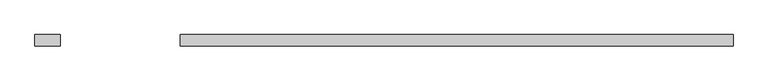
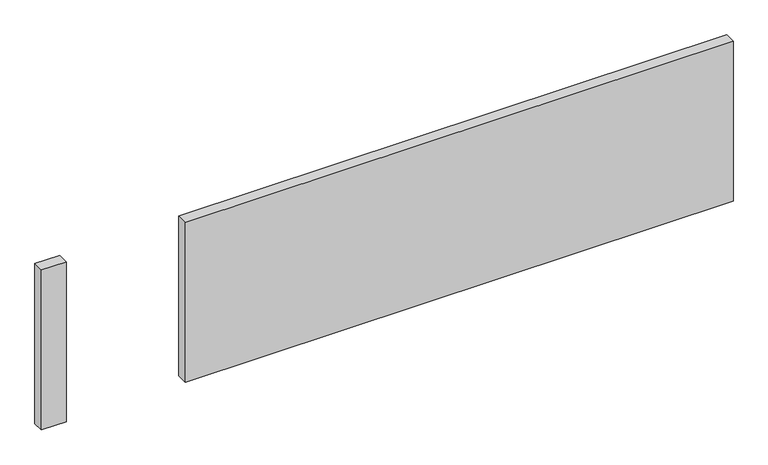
"""IFC4 building model written with IfcOpenShell, lengths in millimetres: proxy geometry, FOUNDATION^STANDARD CREDENZA_WEBSITE DETAIL-BASE."""

from ifc_helpers import new_model, si_unit, frame, origin, place, context, project, spatial, polyline, outline, extrude, source, transform, mapped, element, save


def generic_models_ef4a7861(model_context):
    return source(origin(), model_context, "Body", "SweptSolid", [
        extrude(outline(polyline([(529.43125, 0.0), (529.43125, 38.1), (2400.3, 38.1), (2400.3, 0.0), (529.43125, 0.0)])), frame((0.0, 0.0, 19.05), z_axis=(0.0, 0.0, 1.0), x_axis=(1.0, 0.0, 0.0)), (0.0, 0.0, 1.0), 577.85),
        extrude(outline(polyline([(123.03125, 38.1), (123.03125, 0.0), (38.1, 0.0), (38.1, 38.1), (123.03125, 38.1)])), frame((0.0, 0.0, 19.05), z_axis=(0.0, 0.0, 1.0), x_axis=(1.0, 0.0, 0.0)), (0.0, 0.0, 1.0), 577.85),
    ])


if __name__ == "__main__":
    model = new_model("IFC4")
    model_context = context("Model", 3, world=origin())
    ifc_project = project(units=[si_unit("LENGTHUNIT", "METRE", prefix="MILLI")], contexts=[model_context])
    site = spatial("IfcSite", under=ifc_project)
    building = spatial("IfcBuilding", under=site)
    placement = place(None, origin())
    generic_models_shape = generic_models_ef4a7861(model_context)
    element("IfcBuildingElementProxy", 1, Name="FOUNDATION^STANDARD CREDENZA_WEBSITE DETAIL-BASE", ObjectType="FOUNDATION^STANDARD CREDENZA_WEBSITE DETAIL-BASE", at=placement, inside=building, context=model_context, shape_type="MappedRepresentation", body=[
        mapped(generic_models_shape, transform((0.0, 0.0, 0.0), x_axis=(1.0, 0.0, 0.0), y_axis=(0.0, 1.0, 0.0), z_axis=(0.0, 0.0, 1.0))),
    ])
    save(model, "model.ifc")
